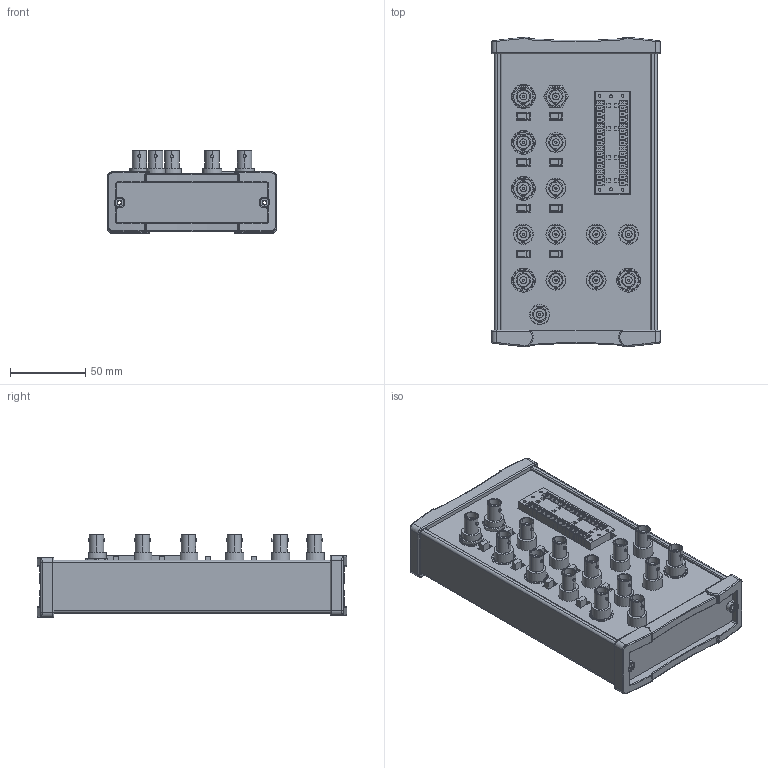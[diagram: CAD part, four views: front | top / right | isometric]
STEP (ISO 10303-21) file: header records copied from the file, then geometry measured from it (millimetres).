
FILE_DESCRIPTION((''),'2;1');
FILE_NAME('CD_BNC_2110','2008-01-15T',('scarrasc'),(''),'PRO/ENGINEER BY PARAMETRIC TECHNOLOGY CORPORATION, 2006080','PRO/ENGINEER BY PARAMETRIC TECHNOLOGY CORPORATION, 2006080','');
FILE_SCHEMA(('CONFIG_CONTROL_DESIGN'));
Products named in the file (1): CD_BNC_2110
Bounding box: 112.01 x 205.45 x 54.99 mm (x, y, z)
Volume: 270684.6 mm3; surface area: 203591.3 mm2
Topology: 10 solids, 10 shells, 3784 faces, 9595 edges, 6205 vertices
Faces by surface type: plane 2760, cylinder 896, torus 52, bspline 44, cone 32
Entity records: 118263 total; most frequent: CARTESIAN_POINT 25644, ORIENTED_EDGE 19190, DIRECTION 18851, EDGE_CURVE 9595, VECTOR 7375, LINE 7375, VERTEX_POINT 6205, AXIS2_PLACEMENT_3D 5738
